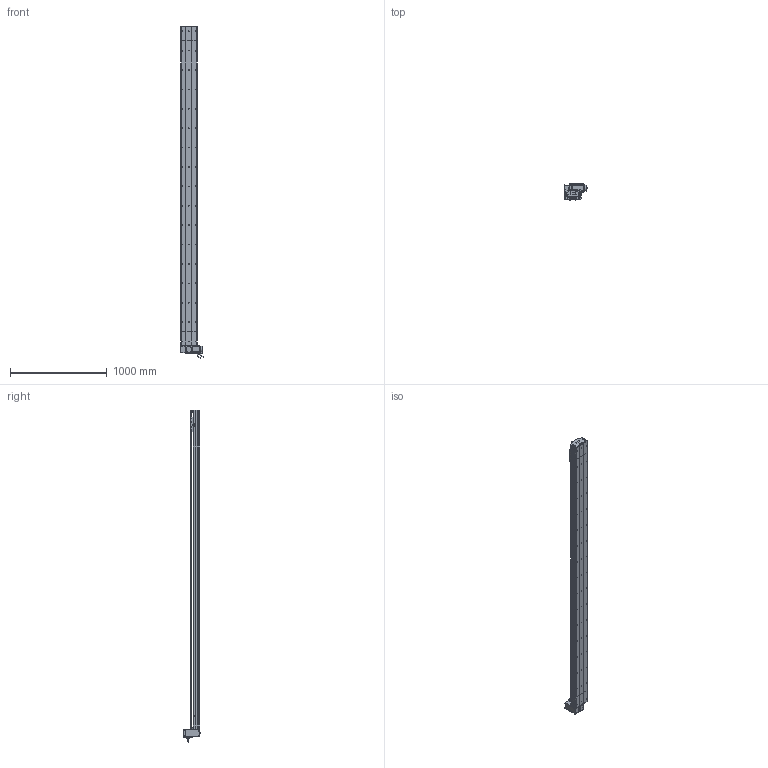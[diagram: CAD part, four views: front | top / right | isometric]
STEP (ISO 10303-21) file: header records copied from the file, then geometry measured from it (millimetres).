
FILE_DESCRIPTION (( 'STEP AP214' ), '1' );
FILE_NAME ('D17 TBH RT S3000.STEP', '2010-06-30T09:03:09', ( 'Christophe Gaillard' ), ( 'SGA' ), 'SwSTEP 2.0', 'SolidWorks 2010', '' );
FILE_SCHEMA (( 'AUTOMOTIVE_DESIGN' ));
Length unit declared in the file: millimetre
Products named in the file (40): couvercle D17B head_Default; corpl head D17 _Default; plaque de  bout head D17B RT_Default; Head RT D17B_Default; vis M5 L12_Default; vis M5 L5_Default; chariot D17S_Default; Rail D17B; plaque de  bout tail D17B_Default; Couroie tail D17B_Default; poulie tail_Default; couvercle D17B_Default; vis M5 L8 90°_Default; couvercle D17B course L3000_Default; couroie head D17_Default; vis M5 L25_Default; Tail D17B_Default; corpl tail D17B_Default; tete d''axe poulie D17B; poulie head_Default; cache arbre D17_Default; cache D17_Default; Renvoi RT_Default; D17 TBH RT S3000; course 3000 D17B_Default; Couroie+ rail D17 Course 3000 ; avant 90BLDC125A-640; codeur 90BLDC125-640; Conecteur2_Default; corps 90BLDC125A-640; Conecteur_Default; vis M5 L70_Default; vis M5 L16_Default; Plaque racord D17_Default; Moteur motionking 90BLDC125A-640; guide D17; Chariot D17; corp D17B 3000_Default; Vis M5 L16-2_Default; Arbre+rail head D17B
Assembly tree (70 placements, depth 4):
  D17 TBH RT S3000
    Tail D17B_Default
      vis M5 L12_Default  x4
      Rail D17B
      poulie tail_Default
      plaque de  bout tail D17B_Default
      corpl tail D17B_Default
      couvercle D17B_Default
      Couroie tail D17B_Default
      vis M5 L8 90°_Default  x2
      vis M5 L25_Default  x2
      tete d''axe poulie D17B
    chariot D17S_Default
      vis M5 L12_Default  x4
      Chariot D17
      guide D17  x2
    Head RT D17B_Default
      couvercle D17B head_Default
      vis M5 L5_Default  x4
      Arbre+rail head D17B
      vis M5 L70_Default  x4
      vis M5 L25_Default  x2
      vis M5 L16_Default  x2
      Vis M5 L16-2_Default  x4
      cache D17_Default  x2
      vis M5 L12_Default  x8
      poulie head_Default
      couroie head D17_Default
      plaque de  bout head D17B RT_Default
      cache arbre D17_Default
      Plaque racord D17_Default
      corpl head D17 _Default
      Renvoi RT_Default
      Moteur motionking 90BLDC125A-640
        corps 90BLDC125A-640
        avant 90BLDC125A-640
        Conecteur2_Default
        Conecteur_Default
        codeur 90BLDC125-640
    course 3000 D17B_Default
      Couroie+ rail D17 Course 3000 
      corp D17B 3000_Default
      couvercle D17B course L3000_Default
Bounding box: 245.2 x 166.15 x 3423.95 mm (x, y, z)
Volume: 19494475.6 mm3; surface area: 5681910.5 mm2
Topology: 94 solids, 94 shells, 2773 faces, 7085 edges, 4558 vertices
Faces by surface type: plane 1607, cylinder 853, bspline 136, cone 88, torus 85, sphere 4
Entity records: 87792 total; most frequent: CARTESIAN_POINT 25729, ORIENTED_EDGE 10942, DIRECTION 10364, EDGE_CURVE 5471, VERTEX_POINT 3582, VECTOR 3550, LINE 3550, AXIS2_PLACEMENT_3D 3407
